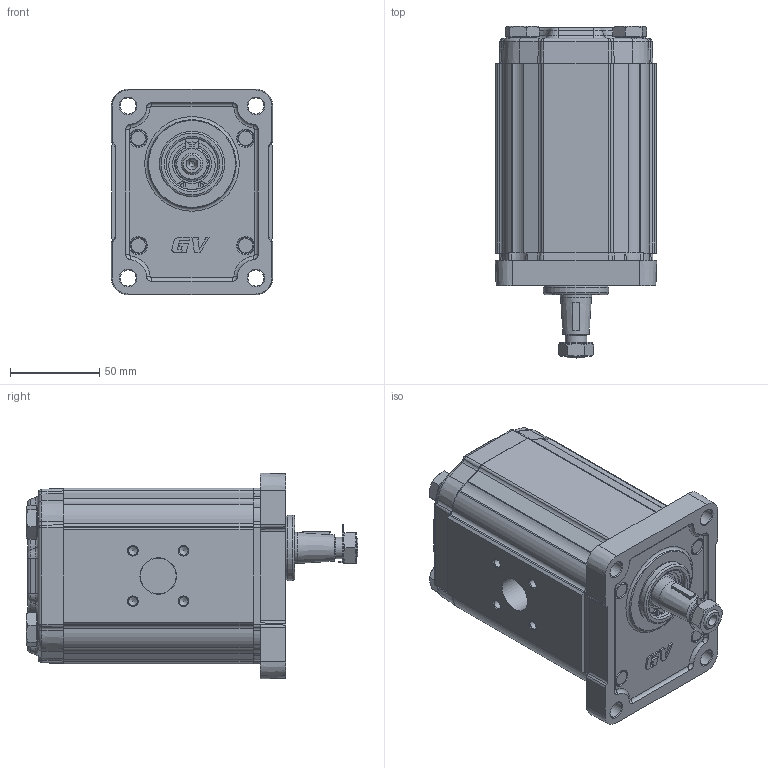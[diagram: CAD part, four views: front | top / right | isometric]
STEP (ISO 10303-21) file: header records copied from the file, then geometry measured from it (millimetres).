
FILE_DESCRIPTION(/* description */ ('Unknown'),/* implementation_level */ '2;1');
FILE_NAME(/* name */ 'G2P6301ESSA',/* time_stamp */ '2026-06-03T17:53:07+02:00',/* author */ ('Unknown'),/* organization */ ('Unknown'),/* preprocessor_version */ 'ST-DEVELOPER v16.7',/* originating_system */ 'Solid Edge',/* authorisation */ 'Unknown');
FILE_SCHEMA (('AUTOMOTIVE_DESIGN {1 0 10303 214 3 1 1}'));
Length unit declared in the file: millimetre
Products named in the file (5): G2P6301ESSA; G2P01; 2E; G2SSH106; GP201-A
Assembly tree (4 placements, depth 2):
  G2P6301ESSA
    G2P01
    2E
    G2SSH106
    GP201-A
Bounding box: 90.29 x 185.55 x 115.1 mm (x, y, z)
Volume: 1085064.3 mm3; surface area: 131163.3 mm2
Topology: 4 solids, 5 shells, 976 faces, 3315 edges, 2089 vertices
Faces by surface type: cylinder 387, plane 342, cone 134, torus 57, bspline 56
Full cylindrical faces by diameter (mm): 2 x2, 4 x2, 5 x8, 9 x4, 9.9 x4, 10 x4, 10.5 x8, 12 x2, 12.5 x1, 15 x4, 15.8 x4, 16 x4, 17.42 x1, 17.48 x2, 18 x4, 18.724 x1, 19 x1, 20 x2, 20.595 x1, 21.741 x1, 25 x1, 25.834 x1, 28.56 x1, 28.57 x1, 28.8 x1, 30.5 x1, 36.5 x1
Entity records: 48216 total; most frequent: CARTESIAN_POINT 13156, ORIENTED_EDGE 6238, DIRECTION 5607, EDGE_CURVE 3119, AXIS2_PLACEMENT_3D 2149, VERTEX_POINT 2042, LINE 1309, VECTOR 1309
